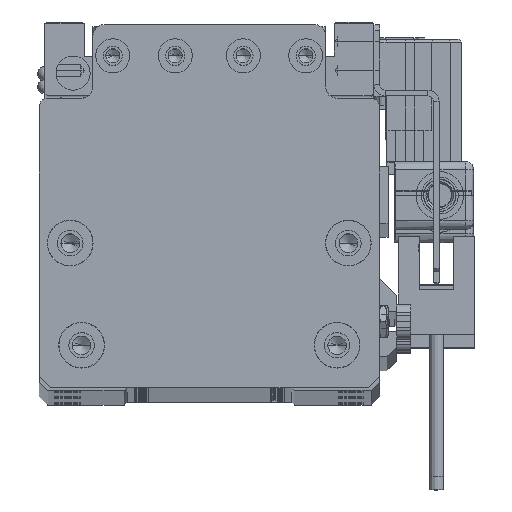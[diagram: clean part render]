
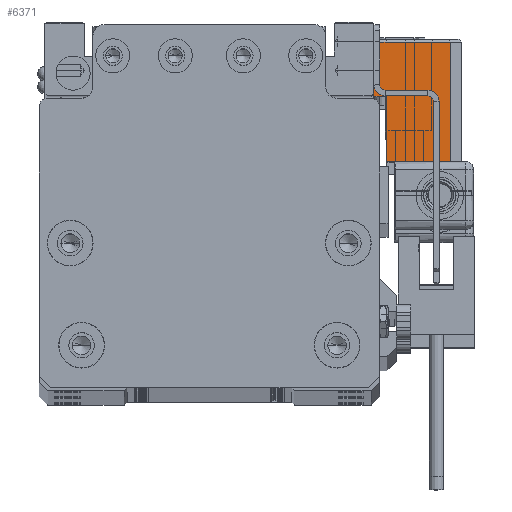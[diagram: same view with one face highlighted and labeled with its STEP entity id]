
A CAD part, top view. The second image highlights one B-rep face of the part: STEP entity #6371.
In plain terms, the highlighted planar face has unit normal (0, 0, 1) as drawn and (-1, 0, 0) by its records, which use the part's own axes.
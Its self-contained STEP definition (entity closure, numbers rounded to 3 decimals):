
#1209 = CARTESIAN_POINT ( 'NONE',  ( -17., 0.75, -15.5 ) ) ;
#1760 = EDGE_CURVE ( 'NONE', #6882, #14742, #70881, .T. ) ;
#3722 = DIRECTION ( 'NONE',  ( 0., 0., 1. ) ) ;
#6201 = VECTOR ( 'NONE', #78416, 1000. ) ;
#6371 = ADVANCED_FACE ( 'NONE', ( #68873 ), #67668, .T. ) ;
#6882 = VERTEX_POINT ( 'NONE', #1209 ) ;
#7547 = ORIENTED_EDGE ( 'NONE', *, *, #1760, .T. ) ;
#7864 = CARTESIAN_POINT ( 'NONE',  ( -17., -10.75, -15.5 ) ) ;
#11839 = VECTOR ( 'NONE', #3722, 1000. ) ;
#12240 = AXIS2_PLACEMENT_3D ( 'NONE', #18867, #48557, #43622 ) ;
#14502 = ORIENTED_EDGE ( 'NONE', *, *, #16132, .T. ) ;
#14742 = VERTEX_POINT ( 'NONE', #24308 ) ;
#15157 = CARTESIAN_POINT ( 'NONE',  ( -17., 0.75, -15.5 ) ) ;
#16132 = EDGE_CURVE ( 'NONE', #66328, #6882, #38755, .T. ) ;
#17383 = CARTESIAN_POINT ( 'NONE',  ( -17., -10.75, -13.3 ) ) ;
#17980 = CARTESIAN_POINT ( 'NONE',  ( -17., 10.25, -15.5 ) ) ;
#18867 = CARTESIAN_POINT ( 'NONE',  ( -17., -10.75, -15.5 ) ) ;
#19679 = CARTESIAN_POINT ( 'NONE',  ( -17., -10.75, -2. ) ) ;
#20423 = ORIENTED_EDGE ( 'NONE', *, *, #55969, .T. ) ;
#23195 = EDGE_CURVE ( 'NONE', #14742, #33411, #60462, .T. ) ;
#24308 = CARTESIAN_POINT ( 'NONE',  ( -17., 0.75, -13.3 ) ) ;
#29747 = CARTESIAN_POINT ( 'NONE',  ( -17., 10.25, -2. ) ) ;
#30699 = ORIENTED_EDGE ( 'NONE', *, *, #74122, .T. ) ;
#33411 = VERTEX_POINT ( 'NONE', #50651 ) ;
#34815 = VECTOR ( 'NONE', #48737, 1000. ) ;
#36114 = CARTESIAN_POINT ( 'NONE',  ( -17., -10.75, -15.5 ) ) ;
#38755 = LINE ( 'NONE', #7864, #74280 ) ;
#40417 = CARTESIAN_POINT ( 'NONE',  ( -17., 10.25, -15.5 ) ) ;
#41049 = DIRECTION ( 'NONE',  ( 0., 1., 0. ) ) ;
#42238 = VERTEX_POINT ( 'NONE', #29747 ) ;
#43622 = DIRECTION ( 'NONE',  ( 0., 0., 1. ) ) ;
#44903 = VECTOR ( 'NONE', #41049, 1000. ) ;
#46343 = CARTESIAN_POINT ( 'NONE',  ( -17., 10.75, -2. ) ) ;
#48557 = DIRECTION ( 'NONE',  ( -1., 0., 0. ) ) ;
#48737 = DIRECTION ( 'NONE',  ( 0., 0., 1. ) ) ;
#50651 = CARTESIAN_POINT ( 'NONE',  ( -17., -10.75, -13.3 ) ) ;
#52861 = LINE ( 'NONE', #46343, #44903 ) ;
#52956 = DIRECTION ( 'NONE',  ( 0., -1., 0. ) ) ;
#54360 = VECTOR ( 'NONE', #73360, 1000. ) ;
#55969 = EDGE_CURVE ( 'NONE', #76538, #42238, #52861, .T. ) ;
#60462 = LINE ( 'NONE', #17383, #6201 ) ;
#63778 = ORIENTED_EDGE ( 'NONE', *, *, #23195, .T. ) ;
#65423 = EDGE_LOOP ( 'NONE', ( #20423, #30699, #14502, #7547, #63778, #75905 ) ) ;
#66328 = VERTEX_POINT ( 'NONE', #17980 ) ;
#67668 = PLANE ( 'NONE',  #12240 ) ;
#68873 = FACE_OUTER_BOUND ( 'NONE', #65423, .T. ) ;
#70881 = LINE ( 'NONE', #15157, #11839 ) ;
#71893 = EDGE_CURVE ( 'NONE', #33411, #76538, #79677, .T. ) ;
#72957 = LINE ( 'NONE', #40417, #54360 ) ;
#73360 = DIRECTION ( 'NONE',  ( 0., 0., -1. ) ) ;
#74122 = EDGE_CURVE ( 'NONE', #42238, #66328, #72957, .T. ) ;
#74280 = VECTOR ( 'NONE', #52956, 1000. ) ;
#75905 = ORIENTED_EDGE ( 'NONE', *, *, #71893, .T. ) ;
#76538 = VERTEX_POINT ( 'NONE', #19679 ) ;
#78416 = DIRECTION ( 'NONE',  ( 0., -1., 0. ) ) ;
#79677 = LINE ( 'NONE', #36114, #34815 ) ;
